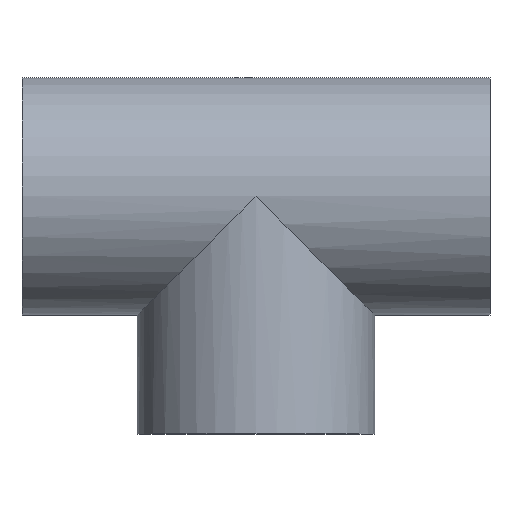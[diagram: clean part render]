
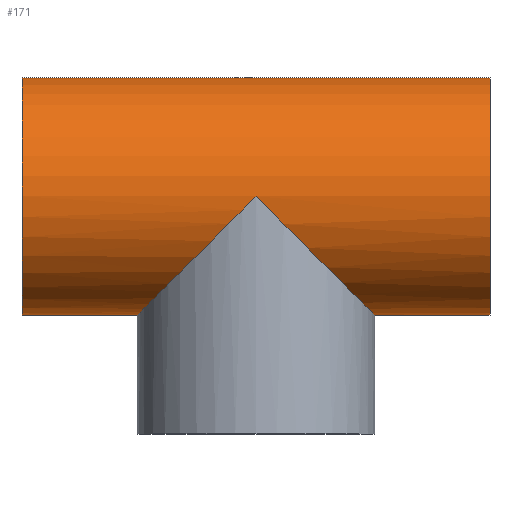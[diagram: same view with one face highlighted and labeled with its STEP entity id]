
A CAD part, top view. The second image highlights one B-rep face of the part: STEP entity #171.
In plain terms, the highlighted cylindrical face has radius 16.5 mm (diameter 33 mm), a full revolution.
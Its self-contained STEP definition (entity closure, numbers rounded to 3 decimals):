
#17=ELLIPSE('',#199,23.335,16.5);
#18=ELLIPSE('',#200,23.335,16.5);
#32=FACE_BOUND('',#68,.T.);
#33=FACE_BOUND('',#69,.T.);
#47=FACE_OUTER_BOUND('',#67,.T.);
#67=EDGE_LOOP('',(#140));
#68=EDGE_LOOP('',(#141,#142));
#69=EDGE_LOOP('',(#143));
#90=CIRCLE('',#198,16.5);
#91=CIRCLE('',#201,16.5);
#104=VERTEX_POINT('',#299);
#105=VERTEX_POINT('',#301);
#106=VERTEX_POINT('',#302);
#107=VERTEX_POINT('',#305);
#120=EDGE_CURVE('',#104,#104,#90,.T.);
#121=EDGE_CURVE('',#105,#106,#17,.T.);
#122=EDGE_CURVE('',#106,#105,#18,.T.);
#123=EDGE_CURVE('',#107,#107,#91,.T.);
#140=ORIENTED_EDGE('',*,*,#120,.F.);
#141=ORIENTED_EDGE('',*,*,#121,.T.);
#142=ORIENTED_EDGE('',*,*,#122,.T.);
#143=ORIENTED_EDGE('',*,*,#123,.F.);
#161=CYLINDRICAL_SURFACE('',#197,16.5);
#171=ADVANCED_FACE('',(#47,#32,#33),#161,.T.);
#197=AXIS2_PLACEMENT_3D('',#298,#246,#247);
#198=AXIS2_PLACEMENT_3D('',#300,#248,#249);
#199=AXIS2_PLACEMENT_3D('',#303,#250,#251);
#200=AXIS2_PLACEMENT_3D('',#304,#252,#253);
#201=AXIS2_PLACEMENT_3D('',#306,#254,#255);
#246=DIRECTION('center_axis',(1.,0.,0.));
#247=DIRECTION('ref_axis',(0.,-1.,0.));
#248=DIRECTION('center_axis',(-1.,0.,0.));
#249=DIRECTION('ref_axis',(0.,-1.,0.));
#250=DIRECTION('center_axis',(-0.707,0.707,0.));
#251=DIRECTION('ref_axis',(-0.707,-0.707,0.));
#252=DIRECTION('center_axis',(0.707,0.707,0.));
#253=DIRECTION('ref_axis',(-0.707,0.707,0.));
#254=DIRECTION('center_axis',(1.,0.,0.));
#255=DIRECTION('ref_axis',(0.,-1.,0.));
#298=CARTESIAN_POINT('Origin',(0.,0.,0.));
#299=CARTESIAN_POINT('',(-32.5,16.5,0.));
#300=CARTESIAN_POINT('Origin',(-32.5,0.,0.));
#301=CARTESIAN_POINT('',(0.,0.,-16.5));
#302=CARTESIAN_POINT('',(0.,0.,16.5));
#303=CARTESIAN_POINT('Origin',(0.,0.,0.));
#304=CARTESIAN_POINT('Origin',(0.,0.,0.));
#305=CARTESIAN_POINT('',(32.5,16.5,0.));
#306=CARTESIAN_POINT('Origin',(32.5,0.,0.));
